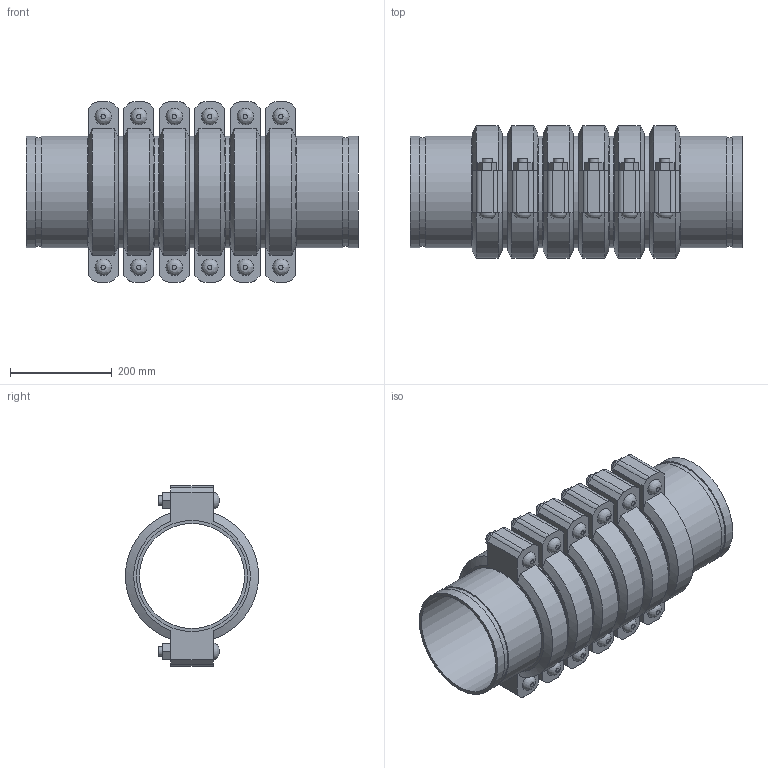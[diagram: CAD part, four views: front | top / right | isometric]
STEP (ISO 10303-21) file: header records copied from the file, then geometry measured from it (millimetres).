
FILE_DESCRIPTION(/* description */ ('VIC EXPANSION JOINT 6 COUPLINGS COMPRESSED STYLE 155 (OGS)','CAx-IF Rec.Pracs.---Representation and Presentation of Product Manufacturing Information (PMI)---4.0---2014-10-13'),/* implementation_level */ '2;1');
FILE_NAME(/* name */ 'C:\Users\kkamble\AppData\Roaming\Autodesk\ApplicationPlugins\Victaulic.Temp\A354\Victaulic_IPS_Expansion Joint_Compressed_6 Couplings_Style 155 (OGS)_8 (200).stp',/* time_stamp */ '2021-06-27T00:32:15+02:00',/* author */ ('kkamble'),/* organization */ ('Victaulic'),/* preprocessor_version */ 'ST-DEVELOPER v17.2',/* originating_system */ 'Autodesk Inventor 2019',/* authorisation */ '');
FILE_SCHEMA (('AP242_MANAGED_MODEL_BASED_3D_ENGINEERING_MIM_LF { 1 0 10303 442 1 1 4 }'));
Length unit declared in the file: inch
Products named in the file (4): 155-08.0; Nipple-08.0; Nipple-08.0_1; 075_6_Coup-08.0
Assembly tree (13 placements, depth 2):
  155-08.0
    Nipple-08.0  x2
    Nipple-08.0_1  x5
    075_6_Coup-08.0  x6
Bounding box: 654.05 x 261.72 x 354.84 mm (x, y, z)
Volume: 10603633 mm3; surface area: 1991339.2 mm2
Topology: 13 solids, 25 shells, 426 faces, 1008 edges, 708 vertices
Faces by surface type: plane 258, cylinder 132, cone 24, bspline 12
Full cylindrical faces by diameter (mm): 19.05 x24, 21.209 x12, 206.985 x7, 212.725 x6, 214.401 x14, 219.075 x33
Entity records: 2826 total; most frequent: CARTESIAN_POINT 497, DIRECTION 469, ORIENTED_EDGE 386, EDGE_CURVE 193, AXIS2_PLACEMENT_3D 188, VERTEX_POINT 138, EDGE_LOOP 107, LINE 93
